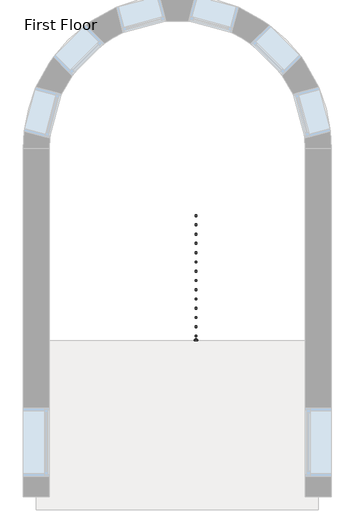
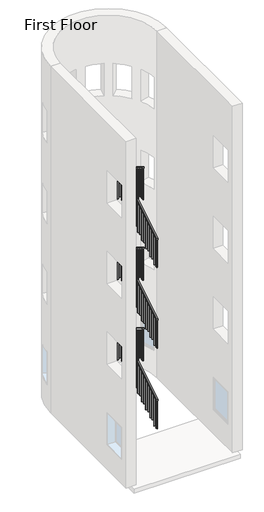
# One storey, part 20 of 22: 1 railing.
"""IFC4 building model written with IfcOpenShell, lengths in millimetres."""

import ifcopenshell
import ifcopenshell.guid

model = None  # the IFC model being written
_history = None  # IfcOwnerHistory: only IFC2X3 demands one
_inside = {}  # id of a spatial element -> (the spatial element, [elements in it])
_under = {}  # id of a project, library or spatial element -> (it, [spatial elements below it])
_declared = {}  # id of a project -> (the project, [libraries it declares])
_typed = {}  # id of a type object -> (the type object, [elements of that type])
_made_of = {}  # id of a material, layer set ... -> (it, [elements and type objects made of it])


def new_model(schema):
    """Start an empty IFC model of exactly this schema.

    Asked for "IFC4X3", IfcOpenShell would pick the latest addendum, in which some entities
    have other attributes; the version numbers below select the first issue.
    IFC2X3 requires an IfcOwnerHistory on every rooted entity: one is made here for all.
    """
    global model, _history
    if schema == "IFC4X3":
        model = ifcopenshell.file(schema_version=(4, 3, 0, 0))
    else:
        model = ifcopenshell.file(schema=schema)
    _inside.clear()
    _under.clear()
    _declared.clear()
    _typed.clear()
    _made_of.clear()
    _history = None
    if model.schema == "IFC2X3":
        org = make("IfcOrganization", Name="unknown")
        user = make(
            "IfcPersonAndOrganization",
            ThePerson=make("IfcPerson", FamilyName="unknown"),
            TheOrganization=org,
        )
        app = make(
            "IfcApplication",
            ApplicationDeveloper=org,
            Version="unknown",
            ApplicationFullName="unknown",
            ApplicationIdentifier="unknown",
        )
        _history = make(
            "IfcOwnerHistory",
            OwningUser=user,
            OwningApplication=app,
            ChangeAction="ADDED",
            CreationDate=0,
        )
    return model


def make(cls, **values):
    """One entity of the class cls with the attributes given. An attribute that is None is left unset."""
    return model.create_entity(
        cls, **{name: value for name, value in values.items() if value is not None}
    )


def rooted(cls, **values):
    """An entity with a GlobalId (a new one), such as an element, a storey or a relation."""
    return make(cls, GlobalId=ifcopenshell.guid.new(), OwnerHistory=_history, **values)


def si_unit(unit_type, name, prefix=None):
    """IfcSIUnit, for example si_unit("LENGTHUNIT", "METRE", prefix="MILLI")."""
    return make("IfcSIUnit", UnitType=unit_type, Prefix=prefix, Name=name)


def assignment(units):
    """IfcUnitAssignment: the units of a project."""
    return None if units is None else make("IfcUnitAssignment", Units=units)


def point(xyz):
    """IfcCartesianPoint."""
    return None if xyz is None else make("IfcCartesianPoint", Coordinates=xyz)


def direction(xyz):
    """IfcDirection."""
    return None if xyz is None else make("IfcDirection", DirectionRatios=xyz)


def frame(location, z_axis=None, x_axis=None):
    """IfcAxis2Placement3D, a coordinate frame: its origin and axes. An axis left out is left unset."""
    return make(
        "IfcAxis2Placement3D",
        Location=point(location),
        Axis=direction(z_axis),
        RefDirection=direction(x_axis),
    )


def origin():
    """The frame at (0, 0, 0) with its axes left unset."""
    return frame((0.0, 0.0, 0.0))


def place(relative_to, where):
    """IfcLocalPlacement: puts the frame where relative to a parent placement (None: the world)."""
    return make(
        "IfcLocalPlacement", PlacementRelTo=relative_to, RelativePlacement=where
    )


def context(
    kind, dimensions, precision=None, world=None, true_north=None, identifier=None
):
    """IfcGeometricRepresentationContext, for example the 3D "Model" context."""
    return make(
        "IfcGeometricRepresentationContext",
        ContextIdentifier=identifier,
        ContextType=kind,
        CoordinateSpaceDimension=dimensions,
        Precision=precision,
        WorldCoordinateSystem=world,
        TrueNorth=true_north,
    )


def project(units=None, contexts=None):
    """IfcProject with its units and contexts."""
    return rooted(
        "IfcProject",
        Name="project",
        RepresentationContexts=contexts,
        UnitsInContext=assignment(units),
    )


def spatial(cls, under=None, at=None, **own):
    """A site, building, storey or space (cls), placed at a placement, below another one or the project."""
    s = rooted(cls, ObjectPlacement=at, **own)
    if under is not None:
        _under.setdefault(under.id(), (under, []))[1].append(s)
    return s


def polyline(points):
    """IfcPolyline through the points."""
    return make("IfcPolyline", Points=[point(p) for p in points])


def outline(outer, holes=None, kind="AREA"):
    """IfcArbitraryClosedProfileDef: a profile drawn as a closed curve; with holes, ...WithVoids."""
    if holes is None:
        return make("IfcArbitraryClosedProfileDef", ProfileType=kind, OuterCurve=outer)
    return make(
        "IfcArbitraryProfileDefWithVoids",
        ProfileType=kind,
        OuterCurve=outer,
        InnerCurves=holes,
    )


def extrude(swept, where, along, depth):
    """IfcExtrudedAreaSolid: the profile swept, set in the frame where, extruded along a direction by depth."""
    return make(
        "IfcExtrudedAreaSolid",
        SweptArea=swept,
        Position=where,
        ExtrudedDirection=direction(along),
        Depth=depth,
    )


def faces_of(points, faces, orient=None, outer=None):
    """IfcFace entities. A face is a list of loops; a loop is a list of indices into points, from 0.

    orient and outer hold one flag for each loop. By default every Orientation is true, the
    first loop of a face is its IfcFaceOuterBound and the others are IfcFaceBound.
    """
    made = []
    for i, loops in enumerate(faces):
        bounds = []
        for j, loop in enumerate(loops):
            is_outer = j == 0 if outer is None else outer[i][j]
            bounds.append(
                make(
                    "IfcFaceOuterBound" if is_outer else "IfcFaceBound",
                    Bound=make("IfcPolyLoop", Polygon=[points[k] for k in loop]),
                    Orientation=True if orient is None else orient[i][j],
                )
            )
        made.append(make("IfcFace", Bounds=bounds))
    return made


def faceted_brep(points, faces, orient=None, outer=None, voids=None):
    """IfcFacetedBrep: a solid bounded by flat faces; with voids (closed shells), ...WithVoids."""
    shared = [point(p) for p in points]
    hull = make("IfcClosedShell", CfsFaces=faces_of(shared, faces, orient, outer))
    if voids is None:
        return make("IfcFacetedBrep", Outer=hull)
    return make(
        "IfcFacetedBrepWithVoids",
        Outer=hull,
        Voids=[
            make(cls, CfsFaces=faces_of(shared, fs, o, b)) for cls, fs, o, b in voids
        ],
    )


def shape(context_of_items, identifier, shape_type, items):
    """IfcShapeRepresentation: the items that make up one representation, for example the "Body"."""
    return make(
        "IfcShapeRepresentation",
        ContextOfItems=context_of_items,
        RepresentationIdentifier=identifier,
        RepresentationType=shape_type,
        Items=items,
    )


def made_of(thing, what):
    """Note that an element or type object is made of a material, layer set ...; save() writes the relation."""
    if what is not None:
        _made_of.setdefault(what.id(), (what, []))[1].append(thing)
    return thing


def element(
    cls,
    number,
    at=None,
    inside=None,
    cuts=None,
    type_object=None,
    material=None,
    context=None,
    identifier="Body",
    shape_type=None,
    held_by="IfcProductDefinitionShape",
    body=None,
    shapes=None,
    **own,
):
    """One element of the class cls, such as IfcWall. Its Tag is "e" and its number.

    at: its placement. inside: the storey or other place that contains it. cuts: it is an
    opening in that element (IfcRelVoidsElement). A single representation is given by context,
    identifier, shape_type and body (its items); several are given by shapes. held_by: the class
    of the entity that holds the representations. save() writes the other relations.
    """
    e = rooted(cls, Tag="e%d" % number, ObjectPlacement=at, **own)
    if body is not None:
        shapes = [shape(context, identifier, shape_type, body)]
    if shapes is not None:
        e.Representation = make(held_by, Representations=shapes)
    if inside is not None:
        _inside.setdefault(inside.id(), (inside, []))[1].append(e)
    if cuts is not None:
        rooted(
            "IfcRelVoidsElement", RelatingBuildingElement=cuts, RelatedOpeningElement=e
        )
    if type_object is not None:
        _typed.setdefault(type_object.id(), (type_object, []))[1].append(e)
    return made_of(e, material)


def aggregate(whole, parts):
    """IfcRelAggregates: a whole, such as a stair, and the parts it consists of."""
    return rooted("IfcRelAggregates", RelatingObject=whole, RelatedObjects=parts)


def save(model, path):
    """Write the relations noted so far, then the file.

    IfcRelAggregates (storeys below a building ...), IfcRelContainedInSpatialStructure (elements
    in a storey), IfcRelDefinesByType, IfcRelAssociatesMaterial and IfcRelDeclares: one each for
    every whole, place, type object, material and project.
    """
    for whole, parts in _under.values():
        aggregate(whole, parts)
    for where, things in _inside.values():
        rooted(
            "IfcRelContainedInSpatialStructure",
            RelatedElements=things,
            RelatingStructure=where,
        )
    for kind, things in _typed.values():
        rooted("IfcRelDefinesByType", RelatedObjects=things, RelatingType=kind)
    for what, things in _made_of.values():
        rooted("IfcRelAssociatesMaterial", RelatedObjects=things, RelatingMaterial=what)
    for by, libraries in _declared.values():
        rooted("IfcRelDeclares", RelatingContext=by, RelatedDefinitions=libraries)
    model.write(path)


model = new_model("IFC4")

# Units and contexts
model_context = context("Model", 3, world=origin())
ifc_project = project(units=[si_unit("LENGTHUNIT", "METRE", prefix="MILLI")], contexts=[model_context])

# Site, building, storey
site = spatial("IfcSite", under=ifc_project)
building = spatial("IfcBuilding", under=site)
storey = spatial("IfcBuildingStorey", under=building, Name="First Floor", Elevation=0.0)

# Railing
placement = place(None, origin())
element("IfcRailing", 1, ObjectType="1100mm", at=placement, inside=storey, context=model_context, shape_type="SolidModel", body=[
    faceted_brep([(-18728.6916203, -1228.8811614, 1251.2483627), (-18728.6916203, -1228.8811614, 1192.5702219), (-18678.6916203, -1228.8811614, 1192.5702219), (-18678.6916203, -1228.8811614, 1251.2483627), (-18728.6916203, 931.5188386, 2578.1801914), (-18728.6916203, 981.5188386, 2550.2123781), (-18678.6916203, 981.5188386, 2550.2123781), (-18678.6916203, 931.5188386, 2578.1801914), (-18728.6916203, 931.5188386, 2624.0), (-18728.6916203, 981.5188386, 2574.0), (-18678.6916203, 981.5188386, 2574.0), (-18678.6916203, 931.5188386, 2624.0), (-18728.6916203, 1006.5188386, 2624.0), (-18728.6916203, 1006.5188386, 2574.0), (-18678.6916203, 1056.5188386, 2574.0), (-18678.6916203, 1056.5188386, 2624.0), (-18803.6916203, 1006.5188386, 2624.0), (-18803.6916203, 1006.5188386, 2574.0), (-18803.6916203, 1056.5188386, 2574.0), (-18803.6916203, 1056.5188386, 2624.0), (-19110.4916203, 1006.5188386, 2624.0), (-19160.4916203, 1006.5188386, 2574.0), (-19160.4916203, 1056.5188386, 2574.0), (-19110.4916203, 1056.5188386, 2624.0), (-19110.4916203, 1006.5188386, 2821.87616), (-19160.4916203, 1006.5188386, 2771.87616), (-19160.4916203, 1056.5188386, 2771.87616), (-19110.4916203, 1056.5188386, 2821.87616), (-19185.4916203, 1006.5188386, 2821.87616), (-19185.4916203, 1006.5188386, 2771.87616), (-19235.4916203, 1056.5188386, 2771.87616), (-19235.4916203, 1056.5188386, 2821.87616), (-19185.4916203, 931.5188386, 2821.87616), (-19185.4916203, 917.4802503, 2771.87616), (-19235.4916203, 917.4802503, 2771.87616), (-19235.4916203, 931.5188386, 2821.87616), (-19185.4916203, -1228.8811614, 4138.856), (-19235.4916203, -1228.8811614, 4138.856), (-19235.4916203, -1228.8811614, 4080.2980765), (-19185.4916203, -1228.8811614, 4080.2980765)], [[[0, 1, 2, 3]], [[1, 0, 4, 5]], [[2, 1, 5, 6]], [[3, 2, 6, 7]], [[0, 3, 7, 4]], [[5, 4, 8, 9]], [[6, 5, 9, 10]], [[7, 6, 10, 11]], [[4, 7, 11, 8]], [[9, 8, 12, 13]], [[10, 9, 13, 14]], [[11, 10, 14, 15]], [[8, 11, 15, 12]], [[13, 12, 16, 17]], [[14, 13, 17, 18]], [[15, 14, 18, 19]], [[12, 15, 19, 16]], [[17, 16, 20, 21]], [[18, 17, 21, 22]], [[19, 18, 22, 23]], [[16, 19, 23, 20]], [[21, 20, 24, 25]], [[22, 21, 25, 26]], [[23, 22, 26, 27]], [[20, 23, 27, 24]], [[25, 24, 28, 29]], [[26, 25, 29, 30]], [[27, 26, 30, 31]], [[24, 27, 31, 28]], [[29, 28, 32, 33]], [[30, 29, 33, 34]], [[31, 30, 34, 35]], [[28, 31, 35, 32]], [[36, 37, 38, 39]], [[33, 32, 36, 39]], [[34, 33, 39, 38]], [[35, 34, 38, 37]], [[32, 35, 37, 36]]]),
    faceted_brep([(-18728.6916203, -1228.8811614, 7347.2483627), (-18728.6916203, -1228.8811614, 7288.5702219), (-18678.6916203, -1228.8811614, 7288.5702219), (-18678.6916203, -1228.8811614, 7347.2483627), (-18728.6916203, 931.5188386, 8674.1801914), (-18728.6916203, 981.5188386, 8646.2123781), (-18678.6916203, 981.5188386, 8646.2123781), (-18678.6916203, 931.5188386, 8674.1801914), (-18728.6916203, 931.5188386, 8720.0), (-18728.6916203, 981.5188386, 8670.0), (-18678.6916203, 981.5188386, 8670.0), (-18678.6916203, 931.5188386, 8720.0), (-18728.6916203, 1006.5188386, 8720.0), (-18728.6916203, 1006.5188386, 8670.0), (-18678.6916203, 1056.5188386, 8670.0), (-18678.6916203, 1056.5188386, 8720.0), (-18803.6916203, 1006.5188386, 8720.0), (-18803.6916203, 1006.5188386, 8670.0), (-18803.6916203, 1056.5188386, 8670.0), (-18803.6916203, 1056.5188386, 8720.0), (-19110.4916203, 1006.5188386, 8720.0), (-19160.4916203, 1006.5188386, 8670.0), (-19160.4916203, 1056.5188386, 8670.0), (-19110.4916203, 1056.5188386, 8720.0), (-19110.4916203, 1006.5188386, 8917.87616), (-19160.4916203, 1006.5188386, 8867.87616), (-19160.4916203, 1056.5188386, 8867.87616), (-19110.4916203, 1056.5188386, 8917.87616), (-19185.4916203, 1006.5188386, 8917.87616), (-19185.4916203, 1006.5188386, 8867.87616), (-19235.4916203, 1056.5188386, 8867.87616), (-19235.4916203, 1056.5188386, 8917.87616), (-19185.4916203, 931.5188386, 8917.87616), (-19185.4916203, 917.4802503, 8867.87616), (-19235.4916203, 917.4802503, 8867.87616), (-19235.4916203, 931.5188386, 8917.87616), (-19185.4916203, -1228.8811614, 10234.856), (-19235.4916203, -1228.8811614, 10234.856), (-19235.4916203, -1228.8811614, 10176.2980765), (-19185.4916203, -1228.8811614, 10176.2980765)], [[[0, 1, 2, 3]], [[1, 0, 4, 5]], [[2, 1, 5, 6]], [[3, 2, 6, 7]], [[0, 3, 7, 4]], [[5, 4, 8, 9]], [[6, 5, 9, 10]], [[7, 6, 10, 11]], [[4, 7, 11, 8]], [[9, 8, 12, 13]], [[10, 9, 13, 14]], [[11, 10, 14, 15]], [[8, 11, 15, 12]], [[13, 12, 16, 17]], [[14, 13, 17, 18]], [[15, 14, 18, 19]], [[12, 15, 19, 16]], [[17, 16, 20, 21]], [[18, 17, 21, 22]], [[19, 18, 22, 23]], [[16, 19, 23, 20]], [[21, 20, 24, 25]], [[22, 21, 25, 26]], [[23, 22, 26, 27]], [[20, 23, 27, 24]], [[25, 24, 28, 29]], [[26, 25, 29, 30]], [[27, 26, 30, 31]], [[24, 27, 31, 28]], [[29, 28, 32, 33]], [[30, 29, 33, 34]], [[31, 30, 34, 35]], [[28, 31, 35, 32]], [[36, 37, 38, 39]], [[33, 32, 36, 39]], [[34, 33, 39, 38]], [[35, 34, 38, 37]], [[32, 35, 37, 36]]]),
    faceted_brep([(-18728.6916203, -1228.8811614, 4299.2483627), (-18728.6916203, -1228.8811614, 4240.5702219), (-18678.6916203, -1228.8811614, 4240.5702219), (-18678.6916203, -1228.8811614, 4299.2483627), (-18728.6916203, 931.5188386, 5626.1801914), (-18728.6916203, 981.5188386, 5598.2123781), (-18678.6916203, 981.5188386, 5598.2123781), (-18678.6916203, 931.5188386, 5626.1801914), (-18728.6916203, 931.5188386, 5672.0), (-18728.6916203, 981.5188386, 5622.0), (-18678.6916203, 981.5188386, 5622.0), (-18678.6916203, 931.5188386, 5672.0), (-18728.6916203, 1006.5188386, 5672.0), (-18728.6916203, 1006.5188386, 5622.0), (-18678.6916203, 1056.5188386, 5622.0), (-18678.6916203, 1056.5188386, 5672.0), (-18803.6916203, 1006.5188386, 5672.0), (-18803.6916203, 1006.5188386, 5622.0), (-18803.6916203, 1056.5188386, 5622.0), (-18803.6916203, 1056.5188386, 5672.0), (-19110.4916203, 1006.5188386, 5672.0), (-19160.4916203, 1006.5188386, 5622.0), (-19160.4916203, 1056.5188386, 5622.0), (-19110.4916203, 1056.5188386, 5672.0), (-19110.4916203, 1006.5188386, 5869.87616), (-19160.4916203, 1006.5188386, 5819.87616), (-19160.4916203, 1056.5188386, 5819.87616), (-19110.4916203, 1056.5188386, 5869.87616), (-19185.4916203, 1006.5188386, 5869.87616), (-19185.4916203, 1006.5188386, 5819.87616), (-19235.4916203, 1056.5188386, 5819.87616), (-19235.4916203, 1056.5188386, 5869.87616), (-19185.4916203, 931.5188386, 5869.87616), (-19185.4916203, 917.4802503, 5819.87616), (-19235.4916203, 917.4802503, 5819.87616), (-19235.4916203, 931.5188386, 5869.87616), (-19185.4916203, -1228.8811614, 7186.856), (-19235.4916203, -1228.8811614, 7186.856), (-19235.4916203, -1228.8811614, 7128.2980765), (-19185.4916203, -1228.8811614, 7128.2980765)], [[[0, 1, 2, 3]], [[1, 0, 4, 5]], [[2, 1, 5, 6]], [[3, 2, 6, 7]], [[0, 3, 7, 4]], [[5, 4, 8, 9]], [[6, 5, 9, 10]], [[7, 6, 10, 11]], [[4, 7, 11, 8]], [[9, 8, 12, 13]], [[10, 9, 13, 14]], [[11, 10, 14, 15]], [[8, 11, 15, 12]], [[13, 12, 16, 17]], [[14, 13, 17, 18]], [[15, 14, 18, 19]], [[12, 15, 19, 16]], [[17, 16, 20, 21]], [[18, 17, 21, 22]], [[19, 18, 22, 23]], [[16, 19, 23, 20]], [[21, 20, 24, 25]], [[22, 21, 25, 26]], [[23, 22, 26, 27]], [[20, 23, 27, 24]], [[25, 24, 28, 29]], [[26, 25, 29, 30]], [[27, 26, 30, 31]], [[24, 27, 31, 28]], [[29, 28, 32, 33]], [[30, 29, 33, 34]], [[31, 30, 34, 35]], [[28, 31, 35, 32]], [[36, 37, 38, 39]], [[33, 32, 36, 39]], [[34, 33, 39, 38]], [[35, 34, 38, 37]], [[32, 35, 37, 36]]]),
    extrude(outline(polyline([(-1143.4811614, 8991.6), (-1168.4811614, 8991.6), (-1168.4811614, 10139.4782365), (-1143.4811614, 10124.2382365), (-1143.4811614, 8991.6)])), frame((-19222.9916203, 0.0, 0.0), z_axis=(1.0, 0.0, 0.0), x_axis=(0.0, 1.0, 0.0)), (0.0, 0.0, 1.0), 25.0),
    extrude(outline(polyline([(-1018.4811614, 8991.6), (-1043.4811614, 8991.6), (-1043.4811614, 10063.2782365), (-1018.4811614, 10048.0382365), (-1018.4811614, 8991.6)])), frame((-19222.9916203, 0.0, 0.0), z_axis=(1.0, 0.0, 0.0), x_axis=(0.0, 1.0, 0.0)), (0.0, 0.0, 1.0), 25.0),
    extrude(outline(polyline([(-893.4811614, 8839.2), (-918.4811614, 8839.2), (-918.4811614, 9987.0782365), (-893.4811614, 9971.8382365), (-893.4811614, 8839.2)])), frame((-19222.9916203, 0.0, 0.0), z_axis=(1.0, 0.0, 0.0), x_axis=(0.0, 1.0, 0.0)), (0.0, 0.0, 1.0), 25.0),
    extrude(outline(polyline([(-768.4811614, 8839.2), (-793.4811614, 8839.2), (-793.4811614, 9910.8782365), (-768.4811614, 9895.6382365), (-768.4811614, 8839.2)])), frame((-19222.9916203, 0.0, 0.0), z_axis=(1.0, 0.0, 0.0), x_axis=(0.0, 1.0, 0.0)), (0.0, 0.0, 1.0), 25.0),
    extrude(outline(polyline([(-643.4811614, 8686.8), (-668.4811614, 8686.8), (-668.4811614, 9834.6782365), (-643.4811614, 9819.4382365), (-643.4811614, 8686.8)])), frame((-19222.9916203, 0.0, 0.0), z_axis=(1.0, 0.0, 0.0), x_axis=(0.0, 1.0, 0.0)), (0.0, 0.0, 1.0), 25.0),
    extrude(outline(polyline([(-518.4811614, 8686.8), (-543.4811614, 8686.8), (-543.4811614, 9758.4782365), (-518.4811614, 9743.2382365), (-518.4811614, 8686.8)])), frame((-19222.9916203, 0.0, 0.0), z_axis=(1.0, 0.0, 0.0), x_axis=(0.0, 1.0, 0.0)), (0.0, 0.0, 1.0), 25.0),
    extrude(outline(polyline([(-393.4811614, 8534.4), (-418.4811614, 8534.4), (-418.4811614, 9682.2782365), (-393.4811614, 9667.0382365), (-393.4811614, 8534.4)])), frame((-19222.9916203, 0.0, 0.0), z_axis=(1.0, 0.0, 0.0), x_axis=(0.0, 1.0, 0.0)), (0.0, 0.0, 1.0), 25.0),
    extrude(outline(polyline([(-268.4811614, 8534.4), (-293.4811614, 8534.4), (-293.4811614, 9606.0782365), (-268.4811614, 9590.8382365), (-268.4811614, 8534.4)])), frame((-19222.9916203, 0.0, 0.0), z_axis=(1.0, 0.0, 0.0), x_axis=(0.0, 1.0, 0.0)), (0.0, 0.0, 1.0), 25.0),
    extrude(outline(polyline([(-143.4811614, 8382.0), (-168.4811614, 8382.0), (-168.4811614, 9529.8782365), (-143.4811614, 9514.6382365), (-143.4811614, 8382.0)])), frame((-19222.9916203, 0.0, 0.0), z_axis=(1.0, 0.0, 0.0), x_axis=(0.0, 1.0, 0.0)), (0.0, 0.0, 1.0), 25.0),
    extrude(outline(polyline([(-18.4811614, 8382.0), (-43.4811614, 8382.0), (-43.4811614, 9453.6782365), (-18.4811614, 9438.4382365), (-18.4811614, 8382.0)])), frame((-19222.9916203, 0.0, 0.0), z_axis=(1.0, 0.0, 0.0), x_axis=(0.0, 1.0, 0.0)), (0.0, 0.0, 1.0), 25.0),
    extrude(outline(polyline([(106.5188386, 8229.6), (81.5188386, 8229.6), (81.5188386, 9377.4782365), (106.5188386, 9362.2382365), (106.5188386, 8229.6)])), frame((-19222.9916203, 0.0, 0.0), z_axis=(1.0, 0.0, 0.0), x_axis=(0.0, 1.0, 0.0)), (0.0, 0.0, 1.0), 25.0),
    extrude(outline(polyline([(231.5188386, 8229.6), (206.5188386, 8229.6), (206.5188386, 9301.2782365), (231.5188386, 9286.0382365), (231.5188386, 8229.6)])), frame((-19222.9916203, 0.0, 0.0), z_axis=(1.0, 0.0, 0.0), x_axis=(0.0, 1.0, 0.0)), (0.0, 0.0, 1.0), 25.0),
    extrude(outline(polyline([(356.5188386, 8077.2), (331.5188386, 8077.2), (331.5188386, 9225.0782365), (356.5188386, 9209.8382365), (356.5188386, 8077.2)])), frame((-19222.9916203, 0.0, 0.0), z_axis=(1.0, 0.0, 0.0), x_axis=(0.0, 1.0, 0.0)), (0.0, 0.0, 1.0), 25.0),
    extrude(outline(polyline([(481.5188386, 8077.2), (456.5188386, 8077.2), (456.5188386, 9148.8782365), (481.5188386, 9133.6382365), (481.5188386, 8077.2)])), frame((-19222.9916203, 0.0, 0.0), z_axis=(1.0, 0.0, 0.0), x_axis=(0.0, 1.0, 0.0)), (0.0, 0.0, 1.0), 25.0),
    extrude(outline(polyline([(606.5188386, 7924.8), (581.5188386, 7924.8), (581.5188386, 9072.6782365), (606.5188386, 9057.4382365), (606.5188386, 7924.8)])), frame((-19222.9916203, 0.0, 0.0), z_axis=(1.0, 0.0, 0.0), x_axis=(0.0, 1.0, 0.0)), (0.0, 0.0, 1.0), 25.0),
    extrude(outline(polyline([(731.5188386, 7924.8), (706.5188386, 7924.8), (706.5188386, 8996.4782365), (731.5188386, 8981.2382365), (731.5188386, 7924.8)])), frame((-19222.9916203, 0.0, 0.0), z_axis=(1.0, 0.0, 0.0), x_axis=(0.0, 1.0, 0.0)), (0.0, 0.0, 1.0), 25.0),
    extrude(outline(polyline([(856.5188386, 7772.4), (831.5188386, 7772.4), (831.5188386, 8920.2782365), (856.5188386, 8905.0382365), (856.5188386, 7772.4)])), frame((-19222.9916203, 0.0, 0.0), z_axis=(1.0, 0.0, 0.0), x_axis=(0.0, 1.0, 0.0)), (0.0, 0.0, 1.0), 25.0),
    extrude(outline(polyline([(-19197.9916203, 981.5188386), (-19197.9916203, 956.5188386), (-19222.9916203, 956.5188386), (-19222.9916203, 981.5188386), (-19197.9916203, 981.5188386)])), frame((0.0, 0.0, 7772.4), z_axis=(0.0, 0.0, 1.0), x_axis=(1.0, 0.0, 0.0)), (0.0, 0.0, 1.0), 1095.47616),
    extrude(outline(polyline([(-19128.6916203, 1019.0188386), (-19153.6916203, 1019.0188386), (-19153.6916203, 1044.0188386), (-19128.6916203, 1044.0188386), (-19128.6916203, 1019.0188386)])), frame((0.0, 0.0, 7620.0), z_axis=(0.0, 0.0, 1.0), x_axis=(1.0, 0.0, 0.0)), (0.0, 0.0, 1.0), 1050.0),
    extrude(outline(polyline([(-19003.6916203, 1019.0188386), (-19028.6916203, 1019.0188386), (-19028.6916203, 1044.0188386), (-19003.6916203, 1044.0188386), (-19003.6916203, 1019.0188386)])), frame((0.0, 0.0, 7620.0), z_axis=(0.0, 0.0, 1.0), x_axis=(1.0, 0.0, 0.0)), (0.0, 0.0, 1.0), 1050.0),
    extrude(outline(polyline([(-18878.6916203, 1019.0188386), (-18903.6916203, 1019.0188386), (-18903.6916203, 1044.0188386), (-18878.6916203, 1044.0188386), (-18878.6916203, 1019.0188386)])), frame((0.0, 0.0, 7620.0), z_axis=(0.0, 0.0, 1.0), x_axis=(1.0, 0.0, 0.0)), (0.0, 0.0, 1.0), 1050.0),
    extrude(outline(polyline([(-18753.6916203, 1019.0188386), (-18778.6916203, 1019.0188386), (-18778.6916203, 1044.0188386), (-18753.6916203, 1044.0188386), (-18753.6916203, 1019.0188386)])), frame((0.0, 0.0, 7620.0), z_axis=(0.0, 0.0, 1.0), x_axis=(1.0, 0.0, 0.0)), (0.0, 0.0, 1.0), 1050.0),
    extrude(outline(polyline([(946.1188386, 8624.4694662), (971.1188386, 8639.8246299), (971.1188386, 7467.6), (946.1188386, 7467.6), (946.1188386, 8624.4694662)])), frame((-18716.1916203, 0.0, 0.0), z_axis=(1.0, 0.0, 0.0), x_axis=(0.0, 1.0, 0.0)), (0.0, 0.0, 1.0), 25.0),
    extrude(outline(polyline([(821.1188386, 8547.6936476), (846.1188386, 8563.0488113), (846.1188386, 7467.6), (821.1188386, 7467.6), (821.1188386, 8547.6936476)])), frame((-18716.1916203, 0.0, 0.0), z_axis=(1.0, 0.0, 0.0), x_axis=(0.0, 1.0, 0.0)), (0.0, 0.0, 1.0), 25.0),
    extrude(outline(polyline([(696.1188386, 8470.9178289), (721.1188386, 8486.2729927), (721.1188386, 7315.2), (696.1188386, 7315.2), (696.1188386, 8470.9178289)])), frame((-18716.1916203, 0.0, 0.0), z_axis=(1.0, 0.0, 0.0), x_axis=(0.0, 1.0, 0.0)), (0.0, 0.0, 1.0), 25.0),
    extrude(outline(polyline([(571.1188386, 8394.1420103), (596.1188386, 8409.497174), (596.1188386, 7315.2), (571.1188386, 7315.2), (571.1188386, 8394.1420103)])), frame((-18716.1916203, 0.0, 0.0), z_axis=(1.0, 0.0, 0.0), x_axis=(0.0, 1.0, 0.0)), (0.0, 0.0, 1.0), 25.0),
    extrude(outline(polyline([(446.1188386, 8317.3661917), (471.1188386, 8332.7213554), (471.1188386, 7162.8), (446.1188386, 7162.8), (446.1188386, 8317.3661917)])), frame((-18716.1916203, 0.0, 0.0), z_axis=(1.0, 0.0, 0.0), x_axis=(0.0, 1.0, 0.0)), (0.0, 0.0, 1.0), 25.0),
    extrude(outline(polyline([(321.1188386, 8240.590373), (346.1188386, 8255.9455367), (346.1188386, 7162.8), (321.1188386, 7162.8), (321.1188386, 8240.590373)])), frame((-18716.1916203, 0.0, 0.0), z_axis=(1.0, 0.0, 0.0), x_axis=(0.0, 1.0, 0.0)), (0.0, 0.0, 1.0), 25.0),
    extrude(outline(polyline([(196.1188386, 8163.8145544), (221.1188386, 8179.1697181), (221.1188386, 7010.4), (196.1188386, 7010.4), (196.1188386, 8163.8145544)])), frame((-18716.1916203, 0.0, 0.0), z_axis=(1.0, 0.0, 0.0), x_axis=(0.0, 1.0, 0.0)), (0.0, 0.0, 1.0), 25.0),
    extrude(outline(polyline([(71.1188386, 8087.0387357), (96.1188386, 8102.3938995), (96.1188386, 7010.4), (71.1188386, 7010.4), (71.1188386, 8087.0387357)])), frame((-18716.1916203, 0.0, 0.0), z_axis=(1.0, 0.0, 0.0), x_axis=(0.0, 1.0, 0.0)), (0.0, 0.0, 1.0), 25.0),
    extrude(outline(polyline([(-53.8811614, 8010.2629171), (-28.8811614, 8025.6180808), (-28.8811614, 6858.0), (-53.8811614, 6858.0), (-53.8811614, 8010.2629171)])), frame((-18716.1916203, 0.0, 0.0), z_axis=(1.0, 0.0, 0.0), x_axis=(0.0, 1.0, 0.0)), (0.0, 0.0, 1.0), 25.0),
    extrude(outline(polyline([(-178.8811614, 7933.4870985), (-153.8811614, 7948.8422622), (-153.8811614, 6858.0), (-178.8811614, 6858.0), (-178.8811614, 7933.4870985)])), frame((-18716.1916203, 0.0, 0.0), z_axis=(1.0, 0.0, 0.0), x_axis=(0.0, 1.0, 0.0)), (0.0, 0.0, 1.0), 25.0),
    extrude(outline(polyline([(-303.8811614, 7856.7112798), (-278.8811614, 7872.0664435), (-278.8811614, 6705.6), (-303.8811614, 6705.6), (-303.8811614, 7856.7112798)])), frame((-18716.1916203, 0.0, 0.0), z_axis=(1.0, 0.0, 0.0), x_axis=(0.0, 1.0, 0.0)), (0.0, 0.0, 1.0), 25.0),
    extrude(outline(polyline([(-428.8811614, 7779.9354612), (-403.8811614, 7795.2906249), (-403.8811614, 6705.6), (-428.8811614, 6705.6), (-428.8811614, 7779.9354612)])), frame((-18716.1916203, 0.0, 0.0), z_axis=(1.0, 0.0, 0.0), x_axis=(0.0, 1.0, 0.0)), (0.0, 0.0, 1.0), 25.0),
    extrude(outline(polyline([(-553.8811614, 7703.1596425), (-528.8811614, 7718.5148063), (-528.8811614, 6553.2), (-553.8811614, 6553.2), (-553.8811614, 7703.1596425)])), frame((-18716.1916203, 0.0, 0.0), z_axis=(1.0, 0.0, 0.0), x_axis=(0.0, 1.0, 0.0)), (0.0, 0.0, 1.0), 25.0),
    extrude(outline(polyline([(-678.8811614, 7626.3838239), (-653.8811614, 7641.7389876), (-653.8811614, 6553.2), (-678.8811614, 6553.2), (-678.8811614, 7626.3838239)])), frame((-18716.1916203, 0.0, 0.0), z_axis=(1.0, 0.0, 0.0), x_axis=(0.0, 1.0, 0.0)), (0.0, 0.0, 1.0), 25.0),
    extrude(outline(polyline([(-803.8811614, 7549.6080053), (-778.8811614, 7564.963169), (-778.8811614, 6400.8), (-803.8811614, 6400.8), (-803.8811614, 7549.6080053)])), frame((-18716.1916203, 0.0, 0.0), z_axis=(1.0, 0.0, 0.0), x_axis=(0.0, 1.0, 0.0)), (0.0, 0.0, 1.0), 25.0),
    extrude(outline(polyline([(-928.8811614, 7472.8321866), (-903.8811614, 7488.1873503), (-903.8811614, 6400.8), (-928.8811614, 6400.8), (-928.8811614, 7472.8321866)])), frame((-18716.1916203, 0.0, 0.0), z_axis=(1.0, 0.0, 0.0), x_axis=(0.0, 1.0, 0.0)), (0.0, 0.0, 1.0), 25.0),
    extrude(outline(polyline([(-1053.8811614, 7396.056368), (-1028.8811614, 7411.4115317), (-1028.8811614, 6248.4), (-1053.8811614, 6248.4), (-1053.8811614, 7396.056368)])), frame((-18716.1916203, 0.0, 0.0), z_axis=(1.0, 0.0, 0.0), x_axis=(0.0, 1.0, 0.0)), (0.0, 0.0, 1.0), 25.0),
    extrude(outline(polyline([(-1178.8811614, 7319.2805493), (-1153.8811614, 7334.6357131), (-1153.8811614, 6248.4), (-1178.8811614, 6248.4), (-1178.8811614, 7319.2805493)])), frame((-18716.1916203, 0.0, 0.0), z_axis=(1.0, 0.0, 0.0), x_axis=(0.0, 1.0, 0.0)), (0.0, 0.0, 1.0), 25.0),
    extrude(outline(polyline([(-19197.9916203, 1044.0188386), (-19197.9916203, 1019.0188386), (-19222.9916203, 1019.0188386), (-19222.9916203, 1044.0188386), (-19197.9916203, 1044.0188386)])), frame((0.0, 0.0, 7620.0), z_axis=(0.0, 0.0, 1.0), x_axis=(1.0, 0.0, 0.0)), (0.0, 0.0, 1.0), 1247.87616),
    extrude(outline(polyline([(-18716.1916203, 1019.0188386), (-18716.1916203, 1044.0188386), (-18691.1916203, 1044.0188386), (-18691.1916203, 1019.0188386), (-18716.1916203, 1019.0188386)])), frame((0.0, 0.0, 7620.0), z_axis=(0.0, 0.0, 1.0), x_axis=(1.0, 0.0, 0.0)), (0.0, 0.0, 1.0), 1050.0),
    extrude(outline(polyline([(-18716.1916203, 993.6188386), (-18716.1916203, 1018.6188386), (-18691.1916203, 1018.6188386), (-18691.1916203, 993.6188386), (-18716.1916203, 993.6188386)])), frame((0.0, 0.0, 7620.0), z_axis=(0.0, 0.0, 1.0), x_axis=(1.0, 0.0, 0.0)), (0.0, 0.0, 1.0), 1050.0),
    extrude(outline(polyline([(-1203.8811614, 8991.6), (-1228.8811614, 8991.6), (-1228.8811614, 10176.2980765), (-1203.8811614, 10161.0580765), (-1203.8811614, 8991.6)])), frame((-19222.9916203, 0.0, 0.0), z_axis=(1.0, 0.0, 0.0), x_axis=(0.0, 1.0, 0.0)), (0.0, 0.0, 1.0), 25.0),
    extrude(outline(polyline([(-1228.8811614, 7288.5702219), (-1203.8811614, 7303.9253856), (-1203.8811614, 6248.4), (-1228.8811614, 6248.4), (-1228.8811614, 7288.5702219)])), frame((-18716.1916203, 0.0, 0.0), z_axis=(1.0, 0.0, 0.0), x_axis=(0.0, 1.0, 0.0)), (0.0, 0.0, 1.0), 25.0),
    extrude(outline(polyline([(-1143.4811614, 5943.6), (-1168.4811614, 5943.6), (-1168.4811614, 7091.4782365), (-1143.4811614, 7076.2382365), (-1143.4811614, 5943.6)])), frame((-19222.9916203, 0.0, 0.0), z_axis=(1.0, 0.0, 0.0), x_axis=(0.0, 1.0, 0.0)), (0.0, 0.0, 1.0), 25.0),
    extrude(outline(polyline([(-1018.4811614, 5943.6), (-1043.4811614, 5943.6), (-1043.4811614, 7015.2782365), (-1018.4811614, 7000.0382365), (-1018.4811614, 5943.6)])), frame((-19222.9916203, 0.0, 0.0), z_axis=(1.0, 0.0, 0.0), x_axis=(0.0, 1.0, 0.0)), (0.0, 0.0, 1.0), 25.0),
    extrude(outline(polyline([(-893.4811614, 5791.2), (-918.4811614, 5791.2), (-918.4811614, 6939.0782365), (-893.4811614, 6923.8382365), (-893.4811614, 5791.2)])), frame((-19222.9916203, 0.0, 0.0), z_axis=(1.0, 0.0, 0.0), x_axis=(0.0, 1.0, 0.0)), (0.0, 0.0, 1.0), 25.0),
    extrude(outline(polyline([(-768.4811614, 5791.2), (-793.4811614, 5791.2), (-793.4811614, 6862.8782365), (-768.4811614, 6847.6382365), (-768.4811614, 5791.2)])), frame((-19222.9916203, 0.0, 0.0), z_axis=(1.0, 0.0, 0.0), x_axis=(0.0, 1.0, 0.0)), (0.0, 0.0, 1.0), 25.0),
    extrude(outline(polyline([(-643.4811614, 5638.8), (-668.4811614, 5638.8), (-668.4811614, 6786.6782365), (-643.4811614, 6771.4382365), (-643.4811614, 5638.8)])), frame((-19222.9916203, 0.0, 0.0), z_axis=(1.0, 0.0, 0.0), x_axis=(0.0, 1.0, 0.0)), (0.0, 0.0, 1.0), 25.0),
    extrude(outline(polyline([(-518.4811614, 5638.8), (-543.4811614, 5638.8), (-543.4811614, 6710.4782365), (-518.4811614, 6695.2382365), (-518.4811614, 5638.8)])), frame((-19222.9916203, 0.0, 0.0), z_axis=(1.0, 0.0, 0.0), x_axis=(0.0, 1.0, 0.0)), (0.0, 0.0, 1.0), 25.0),
    extrude(outline(polyline([(-393.4811614, 5486.4), (-418.4811614, 5486.4), (-418.4811614, 6634.2782365), (-393.4811614, 6619.0382365), (-393.4811614, 5486.4)])), frame((-19222.9916203, 0.0, 0.0), z_axis=(1.0, 0.0, 0.0), x_axis=(0.0, 1.0, 0.0)), (0.0, 0.0, 1.0), 25.0),
    extrude(outline(polyline([(-268.4811614, 5486.4), (-293.4811614, 5486.4), (-293.4811614, 6558.0782365), (-268.4811614, 6542.8382365), (-268.4811614, 5486.4)])), frame((-19222.9916203, 0.0, 0.0), z_axis=(1.0, 0.0, 0.0), x_axis=(0.0, 1.0, 0.0)), (0.0, 0.0, 1.0), 25.0),
    extrude(outline(polyline([(-143.4811614, 5334.0), (-168.4811614, 5334.0), (-168.4811614, 6481.8782365), (-143.4811614, 6466.6382365), (-143.4811614, 5334.0)])), frame((-19222.9916203, 0.0, 0.0), z_axis=(1.0, 0.0, 0.0), x_axis=(0.0, 1.0, 0.0)), (0.0, 0.0, 1.0), 25.0),
    extrude(outline(polyline([(-18.4811614, 5334.0), (-43.4811614, 5334.0), (-43.4811614, 6405.6782365), (-18.4811614, 6390.4382365), (-18.4811614, 5334.0)])), frame((-19222.9916203, 0.0, 0.0), z_axis=(1.0, 0.0, 0.0), x_axis=(0.0, 1.0, 0.0)), (0.0, 0.0, 1.0), 25.0),
    extrude(outline(polyline([(106.5188386, 5181.6), (81.5188386, 5181.6), (81.5188386, 6329.4782365), (106.5188386, 6314.2382365), (106.5188386, 5181.6)])), frame((-19222.9916203, 0.0, 0.0), z_axis=(1.0, 0.0, 0.0), x_axis=(0.0, 1.0, 0.0)), (0.0, 0.0, 1.0), 25.0),
    extrude(outline(polyline([(231.5188386, 5181.6), (206.5188386, 5181.6), (206.5188386, 6253.2782365), (231.5188386, 6238.0382365), (231.5188386, 5181.6)])), frame((-19222.9916203, 0.0, 0.0), z_axis=(1.0, 0.0, 0.0), x_axis=(0.0, 1.0, 0.0)), (0.0, 0.0, 1.0), 25.0),
    extrude(outline(polyline([(356.5188386, 5029.2), (331.5188386, 5029.2), (331.5188386, 6177.0782365), (356.5188386, 6161.8382365), (356.5188386, 5029.2)])), frame((-19222.9916203, 0.0, 0.0), z_axis=(1.0, 0.0, 0.0), x_axis=(0.0, 1.0, 0.0)), (0.0, 0.0, 1.0), 25.0),
    extrude(outline(polyline([(481.5188386, 5029.2), (456.5188386, 5029.2), (456.5188386, 6100.8782365), (481.5188386, 6085.6382365), (481.5188386, 5029.2)])), frame((-19222.9916203, 0.0, 0.0), z_axis=(1.0, 0.0, 0.0), x_axis=(0.0, 1.0, 0.0)), (0.0, 0.0, 1.0), 25.0),
    extrude(outline(polyline([(606.5188386, 4876.8), (581.5188386, 4876.8), (581.5188386, 6024.6782365), (606.5188386, 6009.4382365), (606.5188386, 4876.8)])), frame((-19222.9916203, 0.0, 0.0), z_axis=(1.0, 0.0, 0.0), x_axis=(0.0, 1.0, 0.0)), (0.0, 0.0, 1.0), 25.0),
    extrude(outline(polyline([(731.5188386, 4876.8), (706.5188386, 4876.8), (706.5188386, 5948.4782365), (731.5188386, 5933.2382365), (731.5188386, 4876.8)])), frame((-19222.9916203, 0.0, 0.0), z_axis=(1.0, 0.0, 0.0), x_axis=(0.0, 1.0, 0.0)), (0.0, 0.0, 1.0), 25.0),
    extrude(outline(polyline([(856.5188386, 4724.4), (831.5188386, 4724.4), (831.5188386, 5872.2782365), (856.5188386, 5857.0382365), (856.5188386, 4724.4)])), frame((-19222.9916203, 0.0, 0.0), z_axis=(1.0, 0.0, 0.0), x_axis=(0.0, 1.0, 0.0)), (0.0, 0.0, 1.0), 25.0),
    extrude(outline(polyline([(-19197.9916203, 981.5188386), (-19197.9916203, 956.5188386), (-19222.9916203, 956.5188386), (-19222.9916203, 981.5188386), (-19197.9916203, 981.5188386)])), frame((0.0, 0.0, 4724.4), z_axis=(0.0, 0.0, 1.0), x_axis=(1.0, 0.0, 0.0)), (0.0, 0.0, 1.0), 1095.47616),
    extrude(outline(polyline([(-19128.6916203, 1019.0188386), (-19153.6916203, 1019.0188386), (-19153.6916203, 1044.0188386), (-19128.6916203, 1044.0188386), (-19128.6916203, 1019.0188386)])), frame((0.0, 0.0, 4572.0), z_axis=(0.0, 0.0, 1.0), x_axis=(1.0, 0.0, 0.0)), (0.0, 0.0, 1.0), 1050.0),
    extrude(outline(polyline([(-19003.6916203, 1019.0188386), (-19028.6916203, 1019.0188386), (-19028.6916203, 1044.0188386), (-19003.6916203, 1044.0188386), (-19003.6916203, 1019.0188386)])), frame((0.0, 0.0, 4572.0), z_axis=(0.0, 0.0, 1.0), x_axis=(1.0, 0.0, 0.0)), (0.0, 0.0, 1.0), 1050.0),
    extrude(outline(polyline([(-18878.6916203, 1019.0188386), (-18903.6916203, 1019.0188386), (-18903.6916203, 1044.0188386), (-18878.6916203, 1044.0188386), (-18878.6916203, 1019.0188386)])), frame((0.0, 0.0, 4572.0), z_axis=(0.0, 0.0, 1.0), x_axis=(1.0, 0.0, 0.0)), (0.0, 0.0, 1.0), 1050.0),
    extrude(outline(polyline([(-18753.6916203, 1019.0188386), (-18778.6916203, 1019.0188386), (-18778.6916203, 1044.0188386), (-18753.6916203, 1044.0188386), (-18753.6916203, 1019.0188386)])), frame((0.0, 0.0, 4572.0), z_axis=(0.0, 0.0, 1.0), x_axis=(1.0, 0.0, 0.0)), (0.0, 0.0, 1.0), 1050.0),
    extrude(outline(polyline([(946.1188386, 5576.4694662), (971.1188386, 5591.8246299), (971.1188386, 4419.6), (946.1188386, 4419.6), (946.1188386, 5576.4694662)])), frame((-18716.1916203, 0.0, 0.0), z_axis=(1.0, 0.0, 0.0), x_axis=(0.0, 1.0, 0.0)), (0.0, 0.0, 1.0), 25.0),
    extrude(outline(polyline([(821.1188386, 5499.6936476), (846.1188386, 5515.0488113), (846.1188386, 4419.6), (821.1188386, 4419.6), (821.1188386, 5499.6936476)])), frame((-18716.1916203, 0.0, 0.0), z_axis=(1.0, 0.0, 0.0), x_axis=(0.0, 1.0, 0.0)), (0.0, 0.0, 1.0), 25.0),
    extrude(outline(polyline([(696.1188386, 5422.9178289), (721.1188386, 5438.2729927), (721.1188386, 4267.2), (696.1188386, 4267.2), (696.1188386, 5422.9178289)])), frame((-18716.1916203, 0.0, 0.0), z_axis=(1.0, 0.0, 0.0), x_axis=(0.0, 1.0, 0.0)), (0.0, 0.0, 1.0), 25.0),
    extrude(outline(polyline([(571.1188386, 5346.1420103), (596.1188386, 5361.497174), (596.1188386, 4267.2), (571.1188386, 4267.2), (571.1188386, 5346.1420103)])), frame((-18716.1916203, 0.0, 0.0), z_axis=(1.0, 0.0, 0.0), x_axis=(0.0, 1.0, 0.0)), (0.0, 0.0, 1.0), 25.0),
    extrude(outline(polyline([(446.1188386, 5269.3661917), (471.1188386, 5284.7213554), (471.1188386, 4114.8), (446.1188386, 4114.8), (446.1188386, 5269.3661917)])), frame((-18716.1916203, 0.0, 0.0), z_axis=(1.0, 0.0, 0.0), x_axis=(0.0, 1.0, 0.0)), (0.0, 0.0, 1.0), 25.0),
    extrude(outline(polyline([(321.1188386, 5192.590373), (346.1188386, 5207.9455367), (346.1188386, 4114.8), (321.1188386, 4114.8), (321.1188386, 5192.590373)])), frame((-18716.1916203, 0.0, 0.0), z_axis=(1.0, 0.0, 0.0), x_axis=(0.0, 1.0, 0.0)), (0.0, 0.0, 1.0), 25.0),
    extrude(outline(polyline([(196.1188386, 5115.8145544), (221.1188386, 5131.1697181), (221.1188386, 3962.4), (196.1188386, 3962.4), (196.1188386, 5115.8145544)])), frame((-18716.1916203, 0.0, 0.0), z_axis=(1.0, 0.0, 0.0), x_axis=(0.0, 1.0, 0.0)), (0.0, 0.0, 1.0), 25.0),
    extrude(outline(polyline([(71.1188386, 5039.0387357), (96.1188386, 5054.3938995), (96.1188386, 3962.4), (71.1188386, 3962.4), (71.1188386, 5039.0387357)])), frame((-18716.1916203, 0.0, 0.0), z_axis=(1.0, 0.0, 0.0), x_axis=(0.0, 1.0, 0.0)), (0.0, 0.0, 1.0), 25.0),
    extrude(outline(polyline([(-53.8811614, 4962.2629171), (-28.8811614, 4977.6180808), (-28.8811614, 3810.0), (-53.8811614, 3810.0), (-53.8811614, 4962.2629171)])), frame((-18716.1916203, 0.0, 0.0), z_axis=(1.0, 0.0, 0.0), x_axis=(0.0, 1.0, 0.0)), (0.0, 0.0, 1.0), 25.0),
    extrude(outline(polyline([(-178.8811614, 4885.4870985), (-153.8811614, 4900.8422622), (-153.8811614, 3810.0), (-178.8811614, 3810.0), (-178.8811614, 4885.4870985)])), frame((-18716.1916203, 0.0, 0.0), z_axis=(1.0, 0.0, 0.0), x_axis=(0.0, 1.0, 0.0)), (0.0, 0.0, 1.0), 25.0),
    extrude(outline(polyline([(-303.8811614, 4808.7112798), (-278.8811614, 4824.0664435), (-278.8811614, 3657.6), (-303.8811614, 3657.6), (-303.8811614, 4808.7112798)])), frame((-18716.1916203, 0.0, 0.0), z_axis=(1.0, 0.0, 0.0), x_axis=(0.0, 1.0, 0.0)), (0.0, 0.0, 1.0), 25.0),
    extrude(outline(polyline([(-428.8811614, 4731.9354612), (-403.8811614, 4747.2906249), (-403.8811614, 3657.6), (-428.8811614, 3657.6), (-428.8811614, 4731.9354612)])), frame((-18716.1916203, 0.0, 0.0), z_axis=(1.0, 0.0, 0.0), x_axis=(0.0, 1.0, 0.0)), (0.0, 0.0, 1.0), 25.0),
    extrude(outline(polyline([(-553.8811614, 4655.1596425), (-528.8811614, 4670.5148063), (-528.8811614, 3505.2), (-553.8811614, 3505.2), (-553.8811614, 4655.1596425)])), frame((-18716.1916203, 0.0, 0.0), z_axis=(1.0, 0.0, 0.0), x_axis=(0.0, 1.0, 0.0)), (0.0, 0.0, 1.0), 25.0),
    extrude(outline(polyline([(-678.8811614, 4578.3838239), (-653.8811614, 4593.7389876), (-653.8811614, 3505.2), (-678.8811614, 3505.2), (-678.8811614, 4578.3838239)])), frame((-18716.1916203, 0.0, 0.0), z_axis=(1.0, 0.0, 0.0), x_axis=(0.0, 1.0, 0.0)), (0.0, 0.0, 1.0), 25.0),
    extrude(outline(polyline([(-803.8811614, 4501.6080053), (-778.8811614, 4516.963169), (-778.8811614, 3352.8), (-803.8811614, 3352.8), (-803.8811614, 4501.6080053)])), frame((-18716.1916203, 0.0, 0.0), z_axis=(1.0, 0.0, 0.0), x_axis=(0.0, 1.0, 0.0)), (0.0, 0.0, 1.0), 25.0),
    extrude(outline(polyline([(-928.8811614, 4424.8321866), (-903.8811614, 4440.1873503), (-903.8811614, 3352.8), (-928.8811614, 3352.8), (-928.8811614, 4424.8321866)])), frame((-18716.1916203, 0.0, 0.0), z_axis=(1.0, 0.0, 0.0), x_axis=(0.0, 1.0, 0.0)), (0.0, 0.0, 1.0), 25.0),
    extrude(outline(polyline([(-1053.8811614, 4348.056368), (-1028.8811614, 4363.4115317), (-1028.8811614, 3200.4), (-1053.8811614, 3200.4), (-1053.8811614, 4348.056368)])), frame((-18716.1916203, 0.0, 0.0), z_axis=(1.0, 0.0, 0.0), x_axis=(0.0, 1.0, 0.0)), (0.0, 0.0, 1.0), 25.0),
    extrude(outline(polyline([(-1178.8811614, 4271.2805493), (-1153.8811614, 4286.6357131), (-1153.8811614, 3200.4), (-1178.8811614, 3200.4), (-1178.8811614, 4271.2805493)])), frame((-18716.1916203, 0.0, 0.0), z_axis=(1.0, 0.0, 0.0), x_axis=(0.0, 1.0, 0.0)), (0.0, 0.0, 1.0), 25.0),
    extrude(outline(polyline([(-19197.9916203, 1044.0188386), (-19197.9916203, 1019.0188386), (-19222.9916203, 1019.0188386), (-19222.9916203, 1044.0188386), (-19197.9916203, 1044.0188386)])), frame((0.0, 0.0, 4572.0), z_axis=(0.0, 0.0, 1.0), x_axis=(1.0, 0.0, 0.0)), (0.0, 0.0, 1.0), 1247.87616),
    extrude(outline(polyline([(-18716.1916203, 1019.0188386), (-18716.1916203, 1044.0188386), (-18691.1916203, 1044.0188386), (-18691.1916203, 1019.0188386), (-18716.1916203, 1019.0188386)])), frame((0.0, 0.0, 4572.0), z_axis=(0.0, 0.0, 1.0), x_axis=(1.0, 0.0, 0.0)), (0.0, 0.0, 1.0), 1050.0),
    extrude(outline(polyline([(-18716.1916203, 993.6188386), (-18716.1916203, 1018.6188386), (-18691.1916203, 1018.6188386), (-18691.1916203, 993.6188386), (-18716.1916203, 993.6188386)])), frame((0.0, 0.0, 4572.0), z_axis=(0.0, 0.0, 1.0), x_axis=(1.0, 0.0, 0.0)), (0.0, 0.0, 1.0), 1050.0),
    extrude(outline(polyline([(-1203.8811614, 5943.6), (-1228.8811614, 5943.6), (-1228.8811614, 7128.2980765), (-1203.8811614, 7113.0580765), (-1203.8811614, 5943.6)])), frame((-19222.9916203, 0.0, 0.0), z_axis=(1.0, 0.0, 0.0), x_axis=(0.0, 1.0, 0.0)), (0.0, 0.0, 1.0), 25.0),
    extrude(outline(polyline([(-1228.8811614, 4240.5702219), (-1203.8811614, 4255.9253856), (-1203.8811614, 3200.4), (-1228.8811614, 3200.4), (-1228.8811614, 4240.5702219)])), frame((-18716.1916203, 0.0, 0.0), z_axis=(1.0, 0.0, 0.0), x_axis=(0.0, 1.0, 0.0)), (0.0, 0.0, 1.0), 25.0),
    extrude(outline(polyline([(-1143.4811614, 2895.6), (-1168.4811614, 2895.6), (-1168.4811614, 4043.4782365), (-1143.4811614, 4028.2382365), (-1143.4811614, 2895.6)])), frame((-19222.9916203, 0.0, 0.0), z_axis=(1.0, 0.0, 0.0), x_axis=(0.0, 1.0, 0.0)), (0.0, 0.0, 1.0), 25.0),
    extrude(outline(polyline([(-1018.4811614, 2895.6), (-1043.4811614, 2895.6), (-1043.4811614, 3967.2782365), (-1018.4811614, 3952.0382365), (-1018.4811614, 2895.6)])), frame((-19222.9916203, 0.0, 0.0), z_axis=(1.0, 0.0, 0.0), x_axis=(0.0, 1.0, 0.0)), (0.0, 0.0, 1.0), 25.0),
    extrude(outline(polyline([(-893.4811614, 2743.2), (-918.4811614, 2743.2), (-918.4811614, 3891.0782365), (-893.4811614, 3875.8382365), (-893.4811614, 2743.2)])), frame((-19222.9916203, 0.0, 0.0), z_axis=(1.0, 0.0, 0.0), x_axis=(0.0, 1.0, 0.0)), (0.0, 0.0, 1.0), 25.0),
    extrude(outline(polyline([(-768.4811614, 2743.2), (-793.4811614, 2743.2), (-793.4811614, 3814.8782365), (-768.4811614, 3799.6382365), (-768.4811614, 2743.2)])), frame((-19222.9916203, 0.0, 0.0), z_axis=(1.0, 0.0, 0.0), x_axis=(0.0, 1.0, 0.0)), (0.0, 0.0, 1.0), 25.0),
    extrude(outline(polyline([(-643.4811614, 2590.8), (-668.4811614, 2590.8), (-668.4811614, 3738.6782365), (-643.4811614, 3723.4382365), (-643.4811614, 2590.8)])), frame((-19222.9916203, 0.0, 0.0), z_axis=(1.0, 0.0, 0.0), x_axis=(0.0, 1.0, 0.0)), (0.0, 0.0, 1.0), 25.0),
    extrude(outline(polyline([(-518.4811614, 2590.8), (-543.4811614, 2590.8), (-543.4811614, 3662.4782365), (-518.4811614, 3647.2382365), (-518.4811614, 2590.8)])), frame((-19222.9916203, 0.0, 0.0), z_axis=(1.0, 0.0, 0.0), x_axis=(0.0, 1.0, 0.0)), (0.0, 0.0, 1.0), 25.0),
    extrude(outline(polyline([(-393.4811614, 2438.4), (-418.4811614, 2438.4), (-418.4811614, 3586.2782365), (-393.4811614, 3571.0382365), (-393.4811614, 2438.4)])), frame((-19222.9916203, 0.0, 0.0), z_axis=(1.0, 0.0, 0.0), x_axis=(0.0, 1.0, 0.0)), (0.0, 0.0, 1.0), 25.0),
    extrude(outline(polyline([(-268.4811614, 2438.4), (-293.4811614, 2438.4), (-293.4811614, 3510.0782365), (-268.4811614, 3494.8382365), (-268.4811614, 2438.4)])), frame((-19222.9916203, 0.0, 0.0), z_axis=(1.0, 0.0, 0.0), x_axis=(0.0, 1.0, 0.0)), (0.0, 0.0, 1.0), 25.0),
    extrude(outline(polyline([(-143.4811614, 2286.0), (-168.4811614, 2286.0), (-168.4811614, 3433.8782365), (-143.4811614, 3418.6382365), (-143.4811614, 2286.0)])), frame((-19222.9916203, 0.0, 0.0), z_axis=(1.0, 0.0, 0.0), x_axis=(0.0, 1.0, 0.0)), (0.0, 0.0, 1.0), 25.0),
    extrude(outline(polyline([(-18.4811614, 2286.0), (-43.4811614, 2286.0), (-43.4811614, 3357.6782365), (-18.4811614, 3342.4382365), (-18.4811614, 2286.0)])), frame((-19222.9916203, 0.0, 0.0), z_axis=(1.0, 0.0, 0.0), x_axis=(0.0, 1.0, 0.0)), (0.0, 0.0, 1.0), 25.0),
    extrude(outline(polyline([(106.5188386, 2133.6), (81.5188386, 2133.6), (81.5188386, 3281.4782365), (106.5188386, 3266.2382365), (106.5188386, 2133.6)])), frame((-19222.9916203, 0.0, 0.0), z_axis=(1.0, 0.0, 0.0), x_axis=(0.0, 1.0, 0.0)), (0.0, 0.0, 1.0), 25.0),
    extrude(outline(polyline([(231.5188386, 2133.6), (206.5188386, 2133.6), (206.5188386, 3205.2782365), (231.5188386, 3190.0382365), (231.5188386, 2133.6)])), frame((-19222.9916203, 0.0, 0.0), z_axis=(1.0, 0.0, 0.0), x_axis=(0.0, 1.0, 0.0)), (0.0, 0.0, 1.0), 25.0),
    extrude(outline(polyline([(356.5188386, 1981.2), (331.5188386, 1981.2), (331.5188386, 3129.0782365), (356.5188386, 3113.8382365), (356.5188386, 1981.2)])), frame((-19222.9916203, 0.0, 0.0), z_axis=(1.0, 0.0, 0.0), x_axis=(0.0, 1.0, 0.0)), (0.0, 0.0, 1.0), 25.0),
    extrude(outline(polyline([(481.5188386, 1981.2), (456.5188386, 1981.2), (456.5188386, 3052.8782365), (481.5188386, 3037.6382365), (481.5188386, 1981.2)])), frame((-19222.9916203, 0.0, 0.0), z_axis=(1.0, 0.0, 0.0), x_axis=(0.0, 1.0, 0.0)), (0.0, 0.0, 1.0), 25.0),
    extrude(outline(polyline([(606.5188386, 1828.8), (581.5188386, 1828.8), (581.5188386, 2976.6782365), (606.5188386, 2961.4382365), (606.5188386, 1828.8)])), frame((-19222.9916203, 0.0, 0.0), z_axis=(1.0, 0.0, 0.0), x_axis=(0.0, 1.0, 0.0)), (0.0, 0.0, 1.0), 25.0),
    extrude(outline(polyline([(731.5188386, 1828.8), (706.5188386, 1828.8), (706.5188386, 2900.4782365), (731.5188386, 2885.2382365), (731.5188386, 1828.8)])), frame((-19222.9916203, 0.0, 0.0), z_axis=(1.0, 0.0, 0.0), x_axis=(0.0, 1.0, 0.0)), (0.0, 0.0, 1.0), 25.0),
    extrude(outline(polyline([(856.5188386, 1676.4), (831.5188386, 1676.4), (831.5188386, 2824.2782365), (856.5188386, 2809.0382365), (856.5188386, 1676.4)])), frame((-19222.9916203, 0.0, 0.0), z_axis=(1.0, 0.0, 0.0), x_axis=(0.0, 1.0, 0.0)), (0.0, 0.0, 1.0), 25.0),
    extrude(outline(polyline([(-19197.9916203, 981.5188386), (-19197.9916203, 956.5188386), (-19222.9916203, 956.5188386), (-19222.9916203, 981.5188386), (-19197.9916203, 981.5188386)])), frame((0.0, 0.0, 1676.4), z_axis=(0.0, 0.0, 1.0), x_axis=(1.0, 0.0, 0.0)), (0.0, 0.0, 1.0), 1095.47616),
    extrude(outline(polyline([(-19128.6916203, 1019.0188386), (-19153.6916203, 1019.0188386), (-19153.6916203, 1044.0188386), (-19128.6916203, 1044.0188386), (-19128.6916203, 1019.0188386)])), frame((0.0, 0.0, 1524.0), z_axis=(0.0, 0.0, 1.0), x_axis=(1.0, 0.0, 0.0)), (0.0, 0.0, 1.0), 1050.0),
    extrude(outline(polyline([(-19003.6916203, 1019.0188386), (-19028.6916203, 1019.0188386), (-19028.6916203, 1044.0188386), (-19003.6916203, 1044.0188386), (-19003.6916203, 1019.0188386)])), frame((0.0, 0.0, 1524.0), z_axis=(0.0, 0.0, 1.0), x_axis=(1.0, 0.0, 0.0)), (0.0, 0.0, 1.0), 1050.0),
    extrude(outline(polyline([(-18878.6916203, 1019.0188386), (-18903.6916203, 1019.0188386), (-18903.6916203, 1044.0188386), (-18878.6916203, 1044.0188386), (-18878.6916203, 1019.0188386)])), frame((0.0, 0.0, 1524.0), z_axis=(0.0, 0.0, 1.0), x_axis=(1.0, 0.0, 0.0)), (0.0, 0.0, 1.0), 1050.0),
    extrude(outline(polyline([(-18753.6916203, 1019.0188386), (-18778.6916203, 1019.0188386), (-18778.6916203, 1044.0188386), (-18753.6916203, 1044.0188386), (-18753.6916203, 1019.0188386)])), frame((0.0, 0.0, 1524.0), z_axis=(0.0, 0.0, 1.0), x_axis=(1.0, 0.0, 0.0)), (0.0, 0.0, 1.0), 1050.0),
    extrude(outline(polyline([(946.1188386, 2528.4694662), (971.1188386, 2543.8246299), (971.1188386, 1371.6), (946.1188386, 1371.6), (946.1188386, 2528.4694662)])), frame((-18716.1916203, 0.0, 0.0), z_axis=(1.0, 0.0, 0.0), x_axis=(0.0, 1.0, 0.0)), (0.0, 0.0, 1.0), 25.0),
    extrude(outline(polyline([(821.1188386, 2451.6936476), (846.1188386, 2467.0488113), (846.1188386, 1371.6), (821.1188386, 1371.6), (821.1188386, 2451.6936476)])), frame((-18716.1916203, 0.0, 0.0), z_axis=(1.0, 0.0, 0.0), x_axis=(0.0, 1.0, 0.0)), (0.0, 0.0, 1.0), 25.0),
    extrude(outline(polyline([(696.1188386, 2374.9178289), (721.1188386, 2390.2729927), (721.1188386, 1219.2), (696.1188386, 1219.2), (696.1188386, 2374.9178289)])), frame((-18716.1916203, 0.0, 0.0), z_axis=(1.0, 0.0, 0.0), x_axis=(0.0, 1.0, 0.0)), (0.0, 0.0, 1.0), 25.0),
    extrude(outline(polyline([(571.1188386, 2298.1420103), (596.1188386, 2313.497174), (596.1188386, 1219.2), (571.1188386, 1219.2), (571.1188386, 2298.1420103)])), frame((-18716.1916203, 0.0, 0.0), z_axis=(1.0, 0.0, 0.0), x_axis=(0.0, 1.0, 0.0)), (0.0, 0.0, 1.0), 25.0),
    extrude(outline(polyline([(446.1188386, 2221.3661917), (471.1188386, 2236.7213554), (471.1188386, 1066.8), (446.1188386, 1066.8), (446.1188386, 2221.3661917)])), frame((-18716.1916203, 0.0, 0.0), z_axis=(1.0, 0.0, 0.0), x_axis=(0.0, 1.0, 0.0)), (0.0, 0.0, 1.0), 25.0),
    extrude(outline(polyline([(321.1188386, 2144.590373), (346.1188386, 2159.9455367), (346.1188386, 1066.8), (321.1188386, 1066.8), (321.1188386, 2144.590373)])), frame((-18716.1916203, 0.0, 0.0), z_axis=(1.0, 0.0, 0.0), x_axis=(0.0, 1.0, 0.0)), (0.0, 0.0, 1.0), 25.0),
    extrude(outline(polyline([(196.1188386, 2067.8145544), (221.1188386, 2083.1697181), (221.1188386, 914.4), (196.1188386, 914.4), (196.1188386, 2067.8145544)])), frame((-18716.1916203, 0.0, 0.0), z_axis=(1.0, 0.0, 0.0), x_axis=(0.0, 1.0, 0.0)), (0.0, 0.0, 1.0), 25.0),
    extrude(outline(polyline([(71.1188386, 1991.0387357), (96.1188386, 2006.3938995), (96.1188386, 914.4), (71.1188386, 914.4), (71.1188386, 1991.0387357)])), frame((-18716.1916203, 0.0, 0.0), z_axis=(1.0, 0.0, 0.0), x_axis=(0.0, 1.0, 0.0)), (0.0, 0.0, 1.0), 25.0),
    extrude(outline(polyline([(-53.8811614, 1914.2629171), (-28.8811614, 1929.6180808), (-28.8811614, 762.0), (-53.8811614, 762.0), (-53.8811614, 1914.2629171)])), frame((-18716.1916203, 0.0, 0.0), z_axis=(1.0, 0.0, 0.0), x_axis=(0.0, 1.0, 0.0)), (0.0, 0.0, 1.0), 25.0),
    extrude(outline(polyline([(-178.8811614, 1837.4870985), (-153.8811614, 1852.8422622), (-153.8811614, 762.0), (-178.8811614, 762.0), (-178.8811614, 1837.4870985)])), frame((-18716.1916203, 0.0, 0.0), z_axis=(1.0, 0.0, 0.0), x_axis=(0.0, 1.0, 0.0)), (0.0, 0.0, 1.0), 25.0),
    extrude(outline(polyline([(-303.8811614, 1760.7112798), (-278.8811614, 1776.0664435), (-278.8811614, 609.6), (-303.8811614, 609.6), (-303.8811614, 1760.7112798)])), frame((-18716.1916203, 0.0, 0.0), z_axis=(1.0, 0.0, 0.0), x_axis=(0.0, 1.0, 0.0)), (0.0, 0.0, 1.0), 25.0),
    extrude(outline(polyline([(-428.8811614, 1683.9354612), (-403.8811614, 1699.2906249), (-403.8811614, 609.6), (-428.8811614, 609.6), (-428.8811614, 1683.9354612)])), frame((-18716.1916203, 0.0, 0.0), z_axis=(1.0, 0.0, 0.0), x_axis=(0.0, 1.0, 0.0)), (0.0, 0.0, 1.0), 25.0),
    extrude(outline(polyline([(-553.8811614, 1607.1596425), (-528.8811614, 1622.5148063), (-528.8811614, 457.2), (-553.8811614, 457.2), (-553.8811614, 1607.1596425)])), frame((-18716.1916203, 0.0, 0.0), z_axis=(1.0, 0.0, 0.0), x_axis=(0.0, 1.0, 0.0)), (0.0, 0.0, 1.0), 25.0),
    extrude(outline(polyline([(-678.8811614, 1530.3838239), (-653.8811614, 1545.7389876), (-653.8811614, 457.2), (-678.8811614, 457.2), (-678.8811614, 1530.3838239)])), frame((-18716.1916203, 0.0, 0.0), z_axis=(1.0, 0.0, 0.0), x_axis=(0.0, 1.0, 0.0)), (0.0, 0.0, 1.0), 25.0),
    extrude(outline(polyline([(-803.8811614, 1453.6080053), (-778.8811614, 1468.963169), (-778.8811614, 304.8), (-803.8811614, 304.8), (-803.8811614, 1453.6080053)])), frame((-18716.1916203, 0.0, 0.0), z_axis=(1.0, 0.0, 0.0), x_axis=(0.0, 1.0, 0.0)), (0.0, 0.0, 1.0), 25.0),
    extrude(outline(polyline([(-928.8811614, 1376.8321866), (-903.8811614, 1392.1873503), (-903.8811614, 304.8), (-928.8811614, 304.8), (-928.8811614, 1376.8321866)])), frame((-18716.1916203, 0.0, 0.0), z_axis=(1.0, 0.0, 0.0), x_axis=(0.0, 1.0, 0.0)), (0.0, 0.0, 1.0), 25.0),
    extrude(outline(polyline([(-1053.8811614, 1300.056368), (-1028.8811614, 1315.4115317), (-1028.8811614, 152.4), (-1053.8811614, 152.4), (-1053.8811614, 1300.056368)])), frame((-18716.1916203, 0.0, 0.0), z_axis=(1.0, 0.0, 0.0), x_axis=(0.0, 1.0, 0.0)), (0.0, 0.0, 1.0), 25.0),
    extrude(outline(polyline([(-1178.8811614, 1223.2805493), (-1153.8811614, 1238.6357131), (-1153.8811614, 152.4), (-1178.8811614, 152.4), (-1178.8811614, 1223.2805493)])), frame((-18716.1916203, 0.0, 0.0), z_axis=(1.0, 0.0, 0.0), x_axis=(0.0, 1.0, 0.0)), (0.0, 0.0, 1.0), 25.0),
    extrude(outline(polyline([(-19197.9916203, 1044.0188386), (-19197.9916203, 1019.0188386), (-19222.9916203, 1019.0188386), (-19222.9916203, 1044.0188386), (-19197.9916203, 1044.0188386)])), frame((0.0, 0.0, 1524.0), z_axis=(0.0, 0.0, 1.0), x_axis=(1.0, 0.0, 0.0)), (0.0, 0.0, 1.0), 1247.87616),
    extrude(outline(polyline([(-18716.1916203, 1019.0188386), (-18716.1916203, 1044.0188386), (-18691.1916203, 1044.0188386), (-18691.1916203, 1019.0188386), (-18716.1916203, 1019.0188386)])), frame((0.0, 0.0, 1524.0), z_axis=(0.0, 0.0, 1.0), x_axis=(1.0, 0.0, 0.0)), (0.0, 0.0, 1.0), 1050.0),
    extrude(outline(polyline([(-18716.1916203, 993.6188386), (-18716.1916203, 1018.6188386), (-18691.1916203, 1018.6188386), (-18691.1916203, 993.6188386), (-18716.1916203, 993.6188386)])), frame((0.0, 0.0, 1524.0), z_axis=(0.0, 0.0, 1.0), x_axis=(1.0, 0.0, 0.0)), (0.0, 0.0, 1.0), 1050.0),
    extrude(outline(polyline([(-1203.8811614, 2895.6), (-1228.8811614, 2895.6), (-1228.8811614, 4080.2980765), (-1203.8811614, 4065.0580765), (-1203.8811614, 2895.6)])), frame((-19222.9916203, 0.0, 0.0), z_axis=(1.0, 0.0, 0.0), x_axis=(0.0, 1.0, 0.0)), (0.0, 0.0, 1.0), 25.0),
    extrude(outline(polyline([(-1228.8811614, 1192.5702219), (-1203.8811614, 1207.9253856), (-1203.8811614, 152.4), (-1228.8811614, 152.4), (-1228.8811614, 1192.5702219)])), frame((-18716.1916203, 0.0, 0.0), z_axis=(1.0, 0.0, 0.0), x_axis=(0.0, 1.0, 0.0)), (0.0, 0.0, 1.0), 25.0),
])

save(model, "model.ifc")
